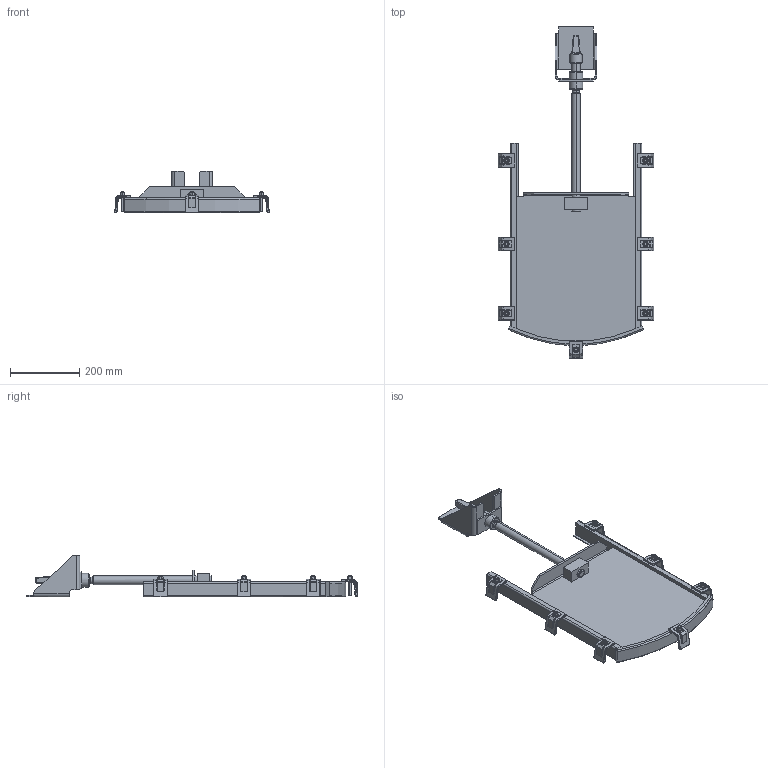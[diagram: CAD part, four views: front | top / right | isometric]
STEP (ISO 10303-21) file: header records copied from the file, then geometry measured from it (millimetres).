
FILE_DESCRIPTION (( 'STEP AP214' ), '1' );
FILE_NAME ('LW 300 gerad klemmen.STEP', '2022-05-19T04:36:41', ( '' ), ( '' ), 'SwSTEP 2.0', 'SolidWorks 2021', '' );
FILE_SCHEMA (( 'AUTOMOTIVE_DESIGN' ));
Length unit declared in the file: millimetre
Products named in the file (1): LW 300 gerad klemmen
Bounding box: 449.57 x 960.79 x 121 mm (x, y, z)
Volume: 2729731.3 mm3; surface area: 772209.8 mm2
Topology: 1 solids, 1 shells, 1126 faces, 2599 edges, 1435 vertices
Faces by surface type: cylinder 439, plane 314, cone 104, sphere 99, torus 92, bspline 78
Entity records: 46747 total; most frequent: CARTESIAN_POINT 9995, DIRECTION 5303, ORIENTED_EDGE 4994, EDGE_CURVE 2497, AXIS2_PLACEMENT_3D 2137, VERTEX_POINT 1421, EDGE_LOOP 1184, UNCERTAINTY_MEASURE_WITH_UNIT 1129
